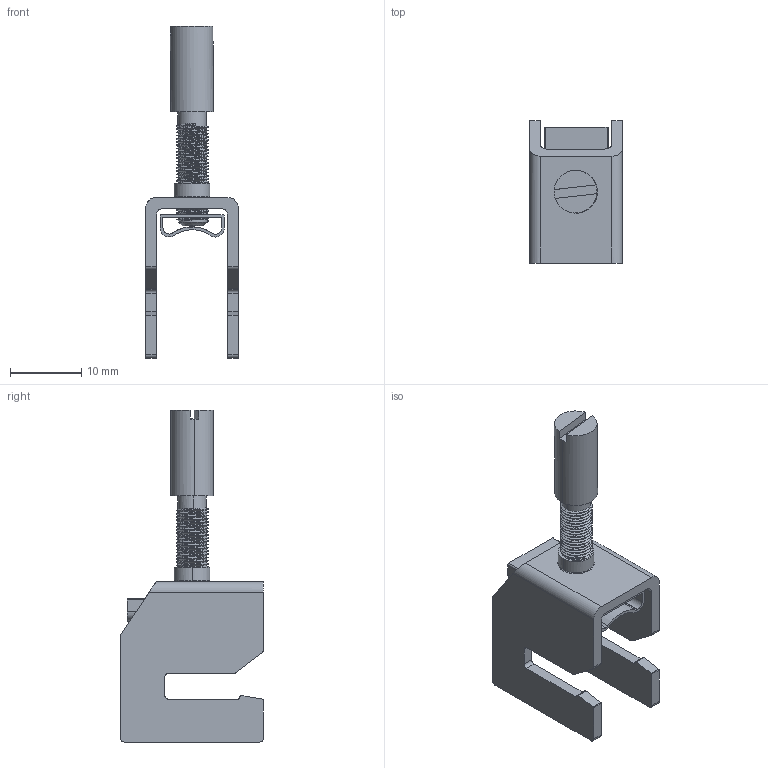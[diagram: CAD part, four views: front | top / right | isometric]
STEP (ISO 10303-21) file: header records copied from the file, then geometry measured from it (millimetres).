
FILE_DESCRIPTION((''),'2;1');
FILE_NAME('ZCC8_ASM_1_ASM','2025-04-18T16:56:21',('28538'),(''),'CREO PARAMETRIC BY PTC INC, 2018050','CREO PARAMETRIC BY PTC INC, 2018050','');
FILE_SCHEMA(('CONFIG_CONTROL_DESIGN'));
Length unit declared in the file: millimetre
Products named in the file (5): ZCC8-1_1_1; 3-_1_1; ZCC8-3_1_1; ASM0001_ASM_1_1_2_3_ASM_1_ASM; ZCC8_ASM_1_ASM
Assembly tree (4 placements, depth 3):
  ZCC8_ASM_1_ASM
    ASM0001_ASM_1_1_2_3_ASM_1_ASM
      ZCC8-1_1_1
      3-_1_1
      ZCC8-3_1_1
Bounding box: 13 x 20 x 46.54 mm (x, y, z)
Volume: 2066.5 mm3; surface area: 3559.8 mm2
Topology: 3 solids, 3 shells, 180 faces, 512 edges, 340 vertices
Faces by surface type: cylinder 125, plane 45, bspline 6, torus 2, cone 2
Entity records: 25743 total; most frequent: CARTESIAN_POINT 21141, ORIENTED_EDGE 1024, DIRECTION 830, EDGE_CURVE 512, VERTEX_POINT 340, AXIS2_PLACEMENT_3D 297, VECTOR 236, LINE 236
